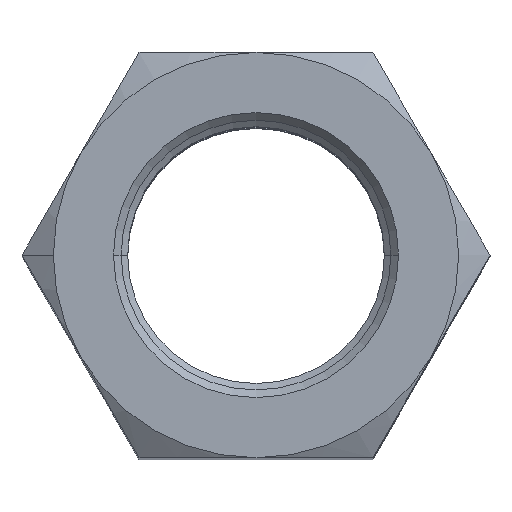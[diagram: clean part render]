
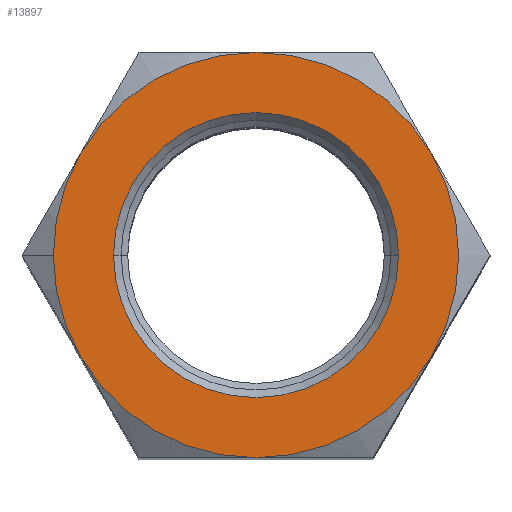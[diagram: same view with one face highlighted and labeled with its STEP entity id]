
A CAD part, top view. The second image highlights one B-rep face of the part: STEP entity #13897.
In plain terms, the highlighted planar face has unit normal (0, 0, 1).
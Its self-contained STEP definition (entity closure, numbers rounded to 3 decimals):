
#211 = VERTEX_POINT ( 'NONE', #10794 ) ;
#455 = DIRECTION ( 'NONE',  ( 1., 0., 0. ) ) ;
#617 = DIRECTION ( 'NONE',  ( 0., 0., 1. ) ) ;
#620 = VERTEX_POINT ( 'NONE', #8360 ) ;
#788 = AXIS2_PLACEMENT_3D ( 'NONE', #8301, #617, #9557 ) ;
#946 = VERTEX_POINT ( 'NONE', #5009 ) ;
#1022 = ORIENTED_EDGE ( 'NONE', *, *, #6852, .F. ) ;
#1239 = CARTESIAN_POINT ( 'NONE',  ( 0., 0., 38.5 ) ) ;
#1393 = CARTESIAN_POINT ( 'NONE',  ( -15., 0., 38.5 ) ) ;
#1534 = DIRECTION ( 'NONE',  ( 0., 0., -1. ) ) ;
#1635 = CARTESIAN_POINT ( 'NONE',  ( 0., 0., 38.5 ) ) ;
#1732 = DIRECTION ( 'NONE',  ( 0., 0., -1. ) ) ;
#2023 = CIRCLE ( 'NONE', #8021, 10.55 ) ;
#2121 = CIRCLE ( 'NONE', #15341, 15. ) ;
#2204 = CARTESIAN_POINT ( 'NONE',  ( 0., 0., 38.5 ) ) ;
#2490 = ORIENTED_EDGE ( 'NONE', *, *, #3628, .F. ) ;
#2532 = DIRECTION ( 'NONE',  ( 1., 0., 0. ) ) ;
#2824 = EDGE_LOOP ( 'NONE', ( #1022, #9207, #15082, #2490, #15662, #5700, #16284 ) ) ;
#2906 = DIRECTION ( 'NONE',  ( 1., 0., 0. ) ) ;
#3127 = CIRCLE ( 'NONE', #8185, 15. ) ;
#3173 = CARTESIAN_POINT ( 'NONE',  ( -17.321, 0., 38.5 ) ) ;
#3469 = AXIS2_PLACEMENT_3D ( 'NONE', #9357, #1732, #10676 ) ;
#3480 = DIRECTION ( 'NONE',  ( 1., 0., 0. ) ) ;
#3503 = VERTEX_POINT ( 'NONE', #12973 ) ;
#3628 = EDGE_CURVE ( 'NONE', #3503, #620, #2121, .T. ) ;
#3682 = CARTESIAN_POINT ( 'NONE',  ( 10.55, 0., 38.5 ) ) ;
#4016 = AXIS2_PLACEMENT_3D ( 'NONE', #3173, #12144, #4451 ) ;
#4249 = CIRCLE ( 'NONE', #788, 10.55 ) ;
#4451 = DIRECTION ( 'NONE',  ( 1., 0., 0. ) ) ;
#4497 = VERTEX_POINT ( 'NONE', #1393 ) ;
#4886 = VERTEX_POINT ( 'NONE', #12211 ) ;
#5009 = CARTESIAN_POINT ( 'NONE',  ( 12.99, 7.5, 38.5 ) ) ;
#5503 = CIRCLE ( 'NONE', #3469, 15. ) ;
#5583 = ORIENTED_EDGE ( 'NONE', *, *, #8588, .F. ) ;
#5700 = ORIENTED_EDGE ( 'NONE', *, *, #13383, .F. ) ;
#5840 = FACE_BOUND ( 'NONE', #9456, .T. ) ;
#6275 = CIRCLE ( 'NONE', #8801, 15. ) ;
#6404 = AXIS2_PLACEMENT_3D ( 'NONE', #1635, #10575, #2906 ) ;
#6852 = EDGE_CURVE ( 'NONE', #4886, #15496, #3127, .T. ) ;
#7016 = CARTESIAN_POINT ( 'NONE',  ( 0., 0., 38.5 ) ) ;
#7348 = VERTEX_POINT ( 'NONE', #3682 ) ;
#7483 = CARTESIAN_POINT ( 'NONE',  ( 0., 0., 38.5 ) ) ;
#7502 = EDGE_CURVE ( 'NONE', #4497, #3503, #5503, .T. ) ;
#8021 = AXIS2_PLACEMENT_3D ( 'NONE', #15792, #8133, #455 ) ;
#8133 = DIRECTION ( 'NONE',  ( 0., 0., 1. ) ) ;
#8149 = EDGE_CURVE ( 'NONE', #7348, #211, #4249, .T. ) ;
#8185 = AXIS2_PLACEMENT_3D ( 'NONE', #2204, #11158, #3480 ) ;
#8301 = CARTESIAN_POINT ( 'NONE',  ( 0., 0., 38.5 ) ) ;
#8327 = DIRECTION ( 'NONE',  ( 1., 0., 0. ) ) ;
#8360 = CARTESIAN_POINT ( 'NONE',  ( 0., 15., 38.5 ) ) ;
#8588 = EDGE_CURVE ( 'NONE', #211, #7348, #2023, .T. ) ;
#8764 = DIRECTION ( 'NONE',  ( -1., 0., 0. ) ) ;
#8801 = AXIS2_PLACEMENT_3D ( 'NONE', #7016, #15984, #8327 ) ;
#8846 = EDGE_CURVE ( 'NONE', #946, #4886, #15007, .T. ) ;
#9001 = EDGE_CURVE ( 'NONE', #620, #946, #11814, .T. ) ;
#9157 = CARTESIAN_POINT ( 'NONE',  ( 0., 0., 38.5 ) ) ;
#9207 = ORIENTED_EDGE ( 'NONE', *, *, #8846, .F. ) ;
#9212 = FACE_OUTER_BOUND ( 'NONE', #2824, .T. ) ;
#9357 = CARTESIAN_POINT ( 'NONE',  ( 0., 0., 38.5 ) ) ;
#9456 = EDGE_LOOP ( 'NONE', ( #5583, #15042 ) ) ;
#9557 = DIRECTION ( 'NONE',  ( 1., 0., 0. ) ) ;
#10180 = DIRECTION ( 'NONE',  ( 0., 0., -1. ) ) ;
#10456 = DIRECTION ( 'NONE',  ( 1., 0., 0. ) ) ;
#10575 = DIRECTION ( 'NONE',  ( 0., 0., -1. ) ) ;
#10676 = DIRECTION ( 'NONE',  ( 1., 0., 0. ) ) ;
#10794 = CARTESIAN_POINT ( 'NONE',  ( -10.55, 0., 38.5 ) ) ;
#10813 = AXIS2_PLACEMENT_3D ( 'NONE', #1239, #10180, #2532 ) ;
#11158 = DIRECTION ( 'NONE',  ( 0., 0., -1. ) ) ;
#11706 = VERTEX_POINT ( 'NONE', #15872 ) ;
#11786 = EDGE_CURVE ( 'NONE', #15496, #11706, #6275, .T. ) ;
#11814 = CIRCLE ( 'NONE', #6404, 15. ) ;
#12144 = DIRECTION ( 'NONE',  ( 0., 0., 1. ) ) ;
#12211 = CARTESIAN_POINT ( 'NONE',  ( 12.99, -7.5, 38.5 ) ) ;
#12937 = CARTESIAN_POINT ( 'NONE',  ( 0., -15., 38.5 ) ) ;
#12973 = CARTESIAN_POINT ( 'NONE',  ( -12.99, 7.5, 38.5 ) ) ;
#13383 = EDGE_CURVE ( 'NONE', #11706, #4497, #14273, .T. ) ;
#13870 = AXIS2_PLACEMENT_3D ( 'NONE', #9157, #1534, #10456 ) ;
#13897 = ADVANCED_FACE ( 'NONE', ( #5840, #9212 ), #14645, .T. ) ;
#14273 = CIRCLE ( 'NONE', #13870, 15. ) ;
#14645 = PLANE ( 'NONE',  #4016 ) ;
#15007 = CIRCLE ( 'NONE', #10813, 15. ) ;
#15042 = ORIENTED_EDGE ( 'NONE', *, *, #8149, .F. ) ;
#15082 = ORIENTED_EDGE ( 'NONE', *, *, #9001, .F. ) ;
#15341 = AXIS2_PLACEMENT_3D ( 'NONE', #7483, #16428, #8764 ) ;
#15496 = VERTEX_POINT ( 'NONE', #12937 ) ;
#15662 = ORIENTED_EDGE ( 'NONE', *, *, #7502, .F. ) ;
#15792 = CARTESIAN_POINT ( 'NONE',  ( 0., 0., 38.5 ) ) ;
#15872 = CARTESIAN_POINT ( 'NONE',  ( -12.99, -7.5, 38.5 ) ) ;
#15984 = DIRECTION ( 'NONE',  ( 0., 0., -1. ) ) ;
#16284 = ORIENTED_EDGE ( 'NONE', *, *, #11786, .F. ) ;
#16428 = DIRECTION ( 'NONE',  ( 0., 0., -1. ) ) ;
